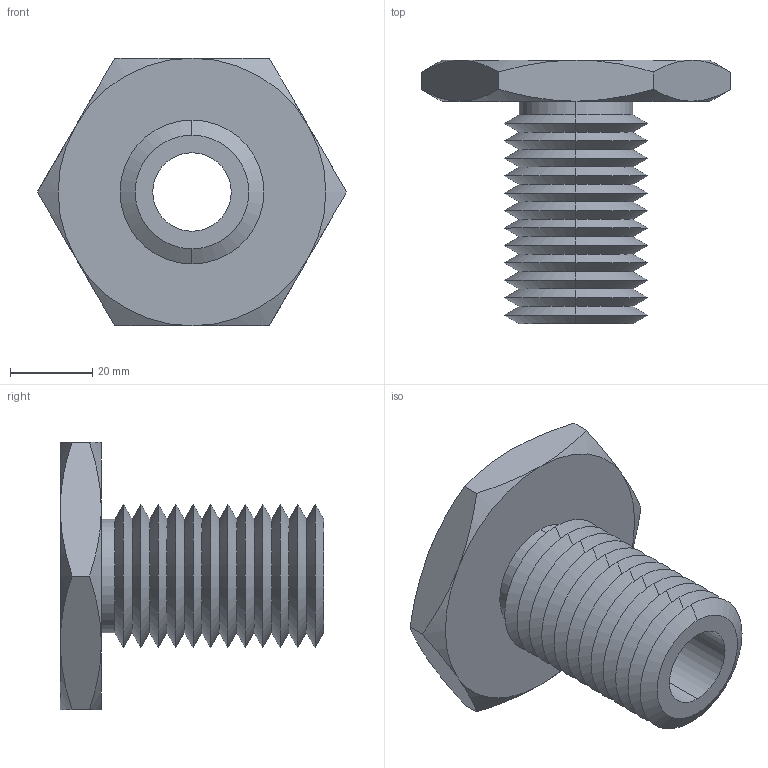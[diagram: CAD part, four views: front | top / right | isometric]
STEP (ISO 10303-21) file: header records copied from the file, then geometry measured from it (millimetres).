
FILE_DESCRIPTION (( 'STEP AP203' ), '1' );
FILE_NAME ('63302.W5138_0,75 UNC-10.step', '2013-12-08T11:43:57', ( 'User' ), ( '' ), 'SwSTEP 2.0', 'SolidWorks 2009', '' );
FILE_SCHEMA (( 'CONFIG_CONTROL_DESIGN' ));
Length unit declared in the file: millimetre
Products named in the file (1): 63302.W5138_0,75 UNC-10
Bounding box: 75.06 x 64 x 65 mm (x, y, z)
Volume: 58632.7 mm3; surface area: 22659.1 mm2
Topology: 1 solids, 1 shells, 75 faces, 154 edges, 82 vertices
Faces by surface type: cone 62, plane 9, cylinder 4
Entity records: 2139 total; most frequent: CARTESIAN_POINT 496, DIRECTION 352, ORIENTED_EDGE 308, EDGE_CURVE 154, AXIS2_PLACEMENT_3D 146, VERTEX_POINT 82, EDGE_LOOP 78, ADVANCED_FACE 75
